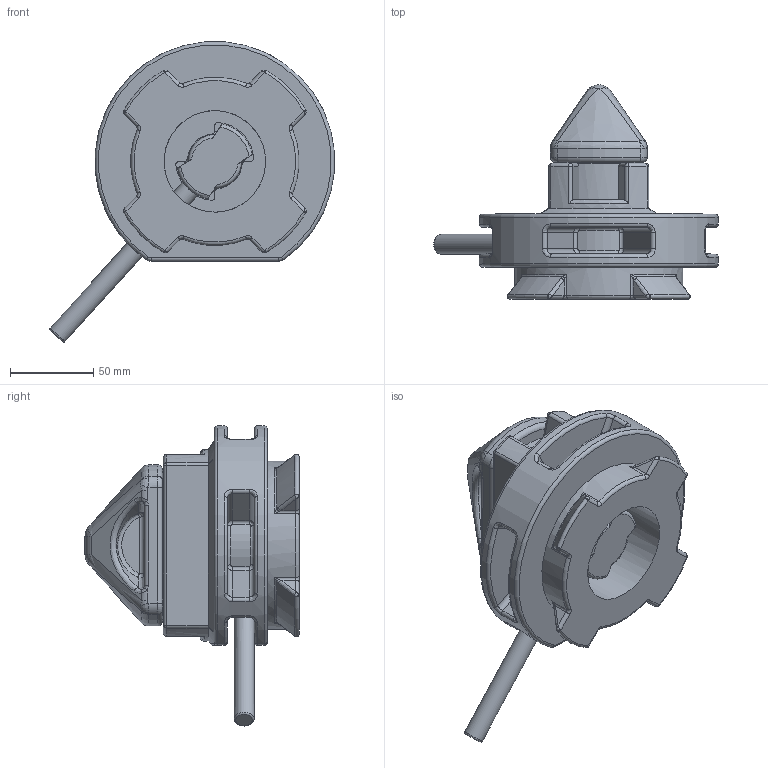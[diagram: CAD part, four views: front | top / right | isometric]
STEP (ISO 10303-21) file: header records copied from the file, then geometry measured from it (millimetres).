
FILE_DESCRIPTION(/* description */ (''),/* implementation_level */ '2;1');
FILE_NAME(/* name */ 'O:\ils2000\Natallia\INVENTOR\AutoCAD stp\NAVACQS\BF-66.stp',/* time_stamp */ '2016-08-12T11:40:51+02:00',/* author */ ('natallia'),/* organization */ (''),/* preprocessor_version */ 'ST-DEVELOPER v16.5',/* originating_system */ 'Autodesk Inventor 2017',/* authorisation */ '');
FILE_SCHEMA (('AUTOMOTIVE_DESIGN { 1 0 10303 214 3 1 1 }'));
Length unit declared in the file: millimetre
Products named in the file (3): BF-66; BF-66 body; CONE
Assembly tree (2 placements, depth 2):
  BF-66
    BF-66 body
    CONE
Bounding box: 170.9 x 128.62 x 180.26 mm (x, y, z)
Volume: 725559.6 mm3; surface area: 124265.5 mm2
Topology: 2 solids, 2 shells, 402 faces, 985 edges, 575 vertices
Faces by surface type: cylinder 125, bspline 125, plane 70, torus 68, sphere 10, cone 4
Full cylindrical faces by diameter (mm): 12 x1, 15 x2, 32 x1, 61 x1, 101 x1
Entity records: 16034 total; most frequent: CARTESIAN_POINT 7134, ORIENTED_EDGE 1912, DIRECTION 1759, EDGE_CURVE 956, AXIS2_PLACEMENT_3D 750, VERTEX_POINT 571, EDGE_LOOP 421, CIRCLE 403
